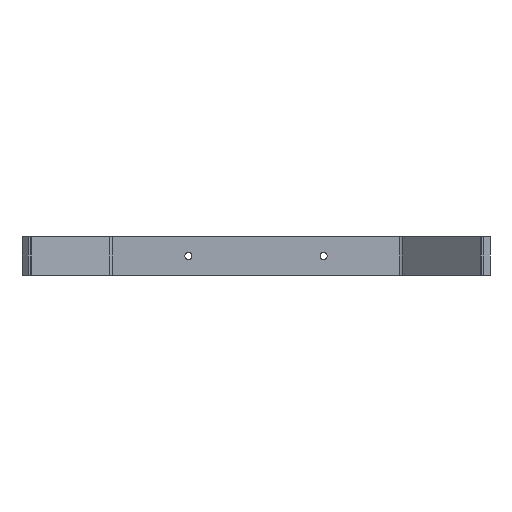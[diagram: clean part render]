
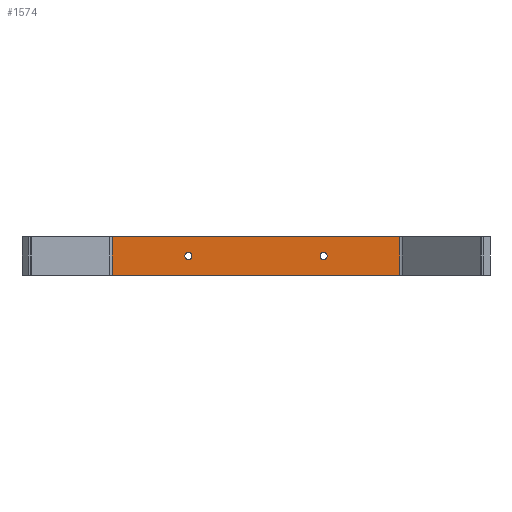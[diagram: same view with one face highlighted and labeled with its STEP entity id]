
A CAD part, front view. The second image highlights one B-rep face of the part: STEP entity #1574.
In plain terms, the highlighted planar face has unit normal (0, -1, 0).
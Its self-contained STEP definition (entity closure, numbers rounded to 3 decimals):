
#4 = VECTOR ( 'NONE', #1009, 1000. ) ;
#5 = VECTOR ( 'NONE', #1012, 1000. ) ;
#6 = CIRCLE ( 'NONE', #1625, 1.75 ) ;
#7 = LINE ( 'NONE', #1013, #13 ) ;
#9 = LINE ( 'NONE', #1011, #5 ) ;
#10 = LINE ( 'NONE', #998, #12 ) ;
#12 = VECTOR ( 'NONE', #999, 1000. ) ;
#13 = VECTOR ( 'NONE', #1071, 1000. ) ;
#15 = LINE ( 'NONE', #1010, #4 ) ;
#16 = CIRCLE ( 'NONE', #1624, 1.75 ) ;
#82 = EDGE_LOOP ( 'NONE', ( #468, #474 ) ) ;
#99 = EDGE_LOOP ( 'NONE', ( #376, #443 ) ) ;
#111 = EDGE_LOOP ( 'NONE', ( #375, #363, #445, #350 ) ) ;
#350 = ORIENTED_EDGE ( 'NONE', *, *, #486, .T. ) ;
#363 = ORIENTED_EDGE ( 'NONE', *, *, #491, .F. ) ;
#375 = ORIENTED_EDGE ( 'NONE', *, *, #490, .T. ) ;
#376 = ORIENTED_EDGE ( 'NONE', *, *, #1660, .F. ) ;
#443 = ORIENTED_EDGE ( 'NONE', *, *, #489, .F. ) ;
#445 = ORIENTED_EDGE ( 'NONE', *, *, #492, .F. ) ;
#468 = ORIENTED_EDGE ( 'NONE', *, *, #1656, .F. ) ;
#474 = ORIENTED_EDGE ( 'NONE', *, *, #488, .F. ) ;
#486 = EDGE_CURVE ( 'NONE', #1016, #989, #10, .T. ) ;
#488 = EDGE_CURVE ( 'NONE', #1037, #1086, #16, .T. ) ;
#489 = EDGE_CURVE ( 'NONE', #1065, #1028, #6, .T. ) ;
#490 = EDGE_CURVE ( 'NONE', #989, #1154, #15, .T. ) ;
#491 = EDGE_CURVE ( 'NONE', #948, #1154, #9, .T. ) ;
#492 = EDGE_CURVE ( 'NONE', #1016, #948, #7, .T. ) ;
#526 = AXIS2_PLACEMENT_3D ( 'NONE', #1201, #1200, #1203 ) ;
#599 = DIRECTION ( 'NONE',  ( 0., 0., 1. ) ) ;
#600 = DIRECTION ( 'NONE',  ( 0., -1., 0. ) ) ;
#601 = CARTESIAN_POINT ( 'NONE',  ( -33., 393., 9.5 ) ) ;
#609 = DIRECTION ( 'NONE',  ( 0., 0., 1. ) ) ;
#610 = DIRECTION ( 'NONE',  ( 0., -1., 0. ) ) ;
#611 = CARTESIAN_POINT ( 'NONE',  ( 33., 393., 9.5 ) ) ;
#730 = CIRCLE ( 'NONE', #1530, 1.75 ) ;
#750 = CIRCLE ( 'NONE', #1528, 1.75 ) ;
#820 = FACE_BOUND ( 'NONE', #99, .T. ) ;
#837 = FACE_BOUND ( 'NONE', #82, .T. ) ;
#848 = FACE_OUTER_BOUND ( 'NONE', #111, .T. ) ;
#948 = VERTEX_POINT ( 'NONE', #1397 ) ;
#989 = VERTEX_POINT ( 'NONE', #1332 ) ;
#998 = CARTESIAN_POINT ( 'NONE',  ( -70.172, 393., 19. ) ) ;
#999 = DIRECTION ( 'NONE',  ( 0., 0., -1. ) ) ;
#1003 = DIRECTION ( 'NONE',  ( 0., -1., 0. ) ) ;
#1004 = CARTESIAN_POINT ( 'NONE',  ( 33., 393., 9.5 ) ) ;
#1005 = DIRECTION ( 'NONE',  ( 0., 0., 1. ) ) ;
#1006 = DIRECTION ( 'NONE',  ( 0., -1., 0. ) ) ;
#1007 = CARTESIAN_POINT ( 'NONE',  ( -33., 393., 9.5 ) ) ;
#1008 = DIRECTION ( 'NONE',  ( 0., 0., 1. ) ) ;
#1009 = DIRECTION ( 'NONE',  ( 1., 0., 0. ) ) ;
#1010 = CARTESIAN_POINT ( 'NONE',  ( -70.172, 393., 0. ) ) ;
#1011 = CARTESIAN_POINT ( 'NONE',  ( 70.172, 393., 19. ) ) ;
#1012 = DIRECTION ( 'NONE',  ( 0., 0., -1. ) ) ;
#1013 = CARTESIAN_POINT ( 'NONE',  ( -70.172, 393., 19. ) ) ;
#1016 = VERTEX_POINT ( 'NONE', #1329 ) ;
#1028 = VERTEX_POINT ( 'NONE', #1322 ) ;
#1037 = VERTEX_POINT ( 'NONE', #1319 ) ;
#1065 = VERTEX_POINT ( 'NONE', #1385 ) ;
#1071 = DIRECTION ( 'NONE',  ( 1., 0., 0. ) ) ;
#1086 = VERTEX_POINT ( 'NONE', #1379 ) ;
#1154 = VERTEX_POINT ( 'NONE', #1375 ) ;
#1199 = PLANE ( 'NONE',  #526 ) ;
#1200 = DIRECTION ( 'NONE',  ( 0., 1., 0. ) ) ;
#1201 = CARTESIAN_POINT ( 'NONE',  ( -70.172, 393., 19. ) ) ;
#1203 = DIRECTION ( 'NONE',  ( 0., 0., 1. ) ) ;
#1319 = CARTESIAN_POINT ( 'NONE',  ( 33., 393., 7.75 ) ) ;
#1322 = CARTESIAN_POINT ( 'NONE',  ( -33., 393., 11.25 ) ) ;
#1329 = CARTESIAN_POINT ( 'NONE',  ( -70.172, 393., 19. ) ) ;
#1332 = CARTESIAN_POINT ( 'NONE',  ( -70.172, 393., 0. ) ) ;
#1375 = CARTESIAN_POINT ( 'NONE',  ( 70.172, 393., 0. ) ) ;
#1379 = CARTESIAN_POINT ( 'NONE',  ( 33., 393., 11.25 ) ) ;
#1385 = CARTESIAN_POINT ( 'NONE',  ( -33., 393., 7.75 ) ) ;
#1397 = CARTESIAN_POINT ( 'NONE',  ( 70.172, 393., 19. ) ) ;
#1528 = AXIS2_PLACEMENT_3D ( 'NONE', #611, #610, #609 ) ;
#1530 = AXIS2_PLACEMENT_3D ( 'NONE', #601, #600, #599 ) ;
#1574 = ADVANCED_FACE ( 'NONE', ( #837, #820, #848 ), #1199, .F. ) ;
#1624 = AXIS2_PLACEMENT_3D ( 'NONE', #1004, #1003, #1005 ) ;
#1625 = AXIS2_PLACEMENT_3D ( 'NONE', #1007, #1006, #1008 ) ;
#1656 = EDGE_CURVE ( 'NONE', #1086, #1037, #750, .T. ) ;
#1660 = EDGE_CURVE ( 'NONE', #1028, #1065, #730, .T. ) ;
